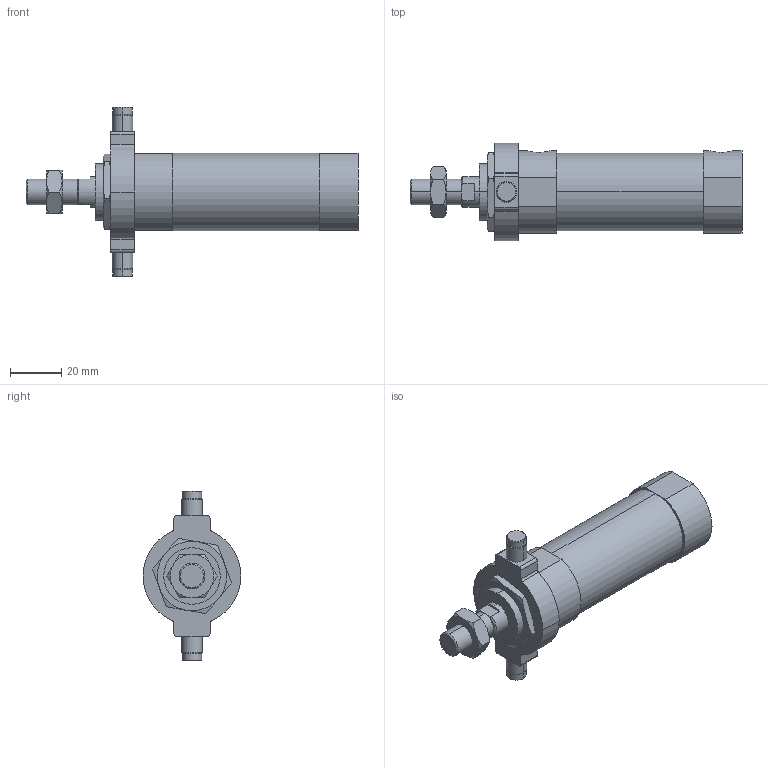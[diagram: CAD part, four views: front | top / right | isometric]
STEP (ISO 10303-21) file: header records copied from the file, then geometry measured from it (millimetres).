
FILE_DESCRIPTION (( 'STEP AP203' ), '1' );
FILE_NAME ('JGND2-25-25-T.STEP', '2016-08-04T02:35:19', ( '' ), ( '' ), 'SwSTEP 2.0', 'SolidWorks 2014', '' );
FILE_SCHEMA (( 'CONFIG_CONTROL_DESIGN' ));
Length unit declared in the file: millimetre
Products named in the file (5): J#2-25-25(P); J#2-25-T; JGND2-25-25-T
Assembly tree (4 placements, depth 2):
  JGND2-25-25-T
    J#2-25-25(P)
    (unnamed)
    J#2-25-T
    (unnamed)
Bounding box: 129 x 38 x 66 mm (x, y, z)
Volume: 79980.2 mm3; surface area: 19284.8 mm2
Topology: 4 solids, 4 shells, 128 faces, 291 edges, 174 vertices
Faces by surface type: plane 45, cylinder 43, torus 24, cone 16
Entity records: 4380 total; most frequent: CARTESIAN_POINT 1020, DIRECTION 619, ORIENTED_EDGE 574, EDGE_CURVE 287, AXIS2_PLACEMENT_3D 253, VERTEX_POINT 174, EDGE_LOOP 141, ADVANCED_FACE 128
